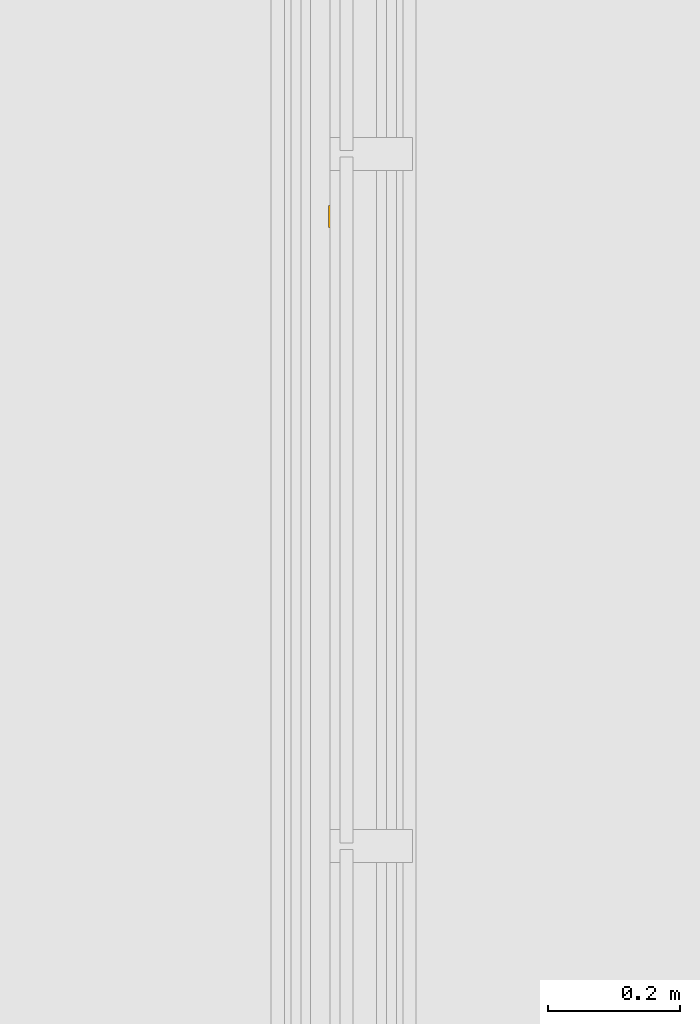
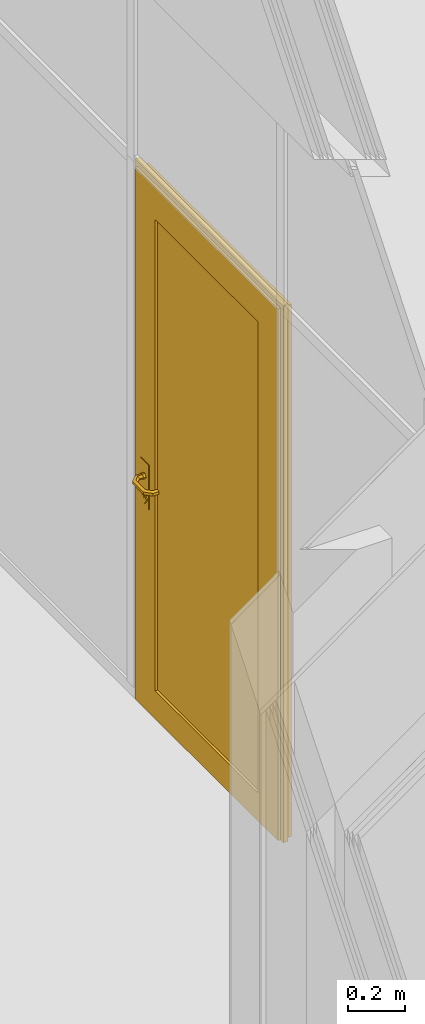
# One storey, part 248 of 260: 1 door, 1 element without a shape of its own.
"""IFC2X3 building model written with IfcOpenShell, lengths in millimetres."""

from ifc_helpers import new_model, entity, si_unit, converted_unit, derived_unit, money_unit, direction, frame, origin_with_axes, place, context, subcontext, project, spatial, open_shell, faceted_brep, surface_model, material, material_list, type_object, element, aggregate, save


model = new_model("IFC2X3")

# Units and contexts
model_context = context("Model", 3, precision=0.01, world=origin_with_axes(), true_north=direction((0.0, 1.0)))
body_context = subcontext(model_context, "Body", "Model", "MODEL_VIEW")
ifc_project = project(units=[si_unit("LENGTHUNIT", "METRE", prefix="MILLI"), si_unit("AREAUNIT", "SQUARE_METRE"), si_unit("VOLUMEUNIT", "CUBIC_METRE"), converted_unit("PLANEANGLEUNIT", "DEGREE", entity("IfcPlaneAngleMeasure", 0.0174532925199), si_unit("PLANEANGLEUNIT", "RADIAN"), dimensions=[0, 0, 0, 0, 0, 0, 0]), money_unit("EUR"), converted_unit("TIMEUNIT", "Year", entity("IfcTimeMeasure", 31556926.0), si_unit("TIMEUNIT", "SECOND"), dimensions=[0, 0, 1, 0, 0, 0, 0]), si_unit("MASSUNIT", "GRAM", prefix="KILO"), si_unit("THERMODYNAMICTEMPERATUREUNIT", "DEGREE_CELSIUS"), si_unit("LUMINOUSINTENSITYUNIT", "LUMEN"), si_unit("ENERGYUNIT", "JOULE", prefix="MEGA"), derived_unit("THERMALCONDUCTANCEUNIT", [(si_unit("POWERUNIT", "WATT"), 1), (si_unit("LENGTHUNIT", "METRE"), -1), (si_unit("THERMODYNAMICTEMPERATUREUNIT", "KELVIN"), -1)]), derived_unit("SPECIFICHEATCAPACITYUNIT", [(si_unit("ENERGYUNIT", "JOULE"), 1), (si_unit("MASSUNIT", "GRAM", prefix="KILO"), -1), (si_unit("THERMODYNAMICTEMPERATUREUNIT", "KELVIN"), -1)]), derived_unit("MASSDENSITYUNIT", [(si_unit("MASSUNIT", "GRAM", prefix="KILO"), 1), (si_unit("VOLUMEUNIT", "CUBIC_METRE"), -1)])], contexts=[model_context])

# Site, building, storey
site_placement = place(None, origin_with_axes())
site = spatial("IfcSite", under=ifc_project, at=site_placement, Name="Kolde pst 67a", CompositionType="ELEMENT")
building_placement = place(site_placement, origin_with_axes())
building = spatial("IfcBuilding", under=site, at=building_placement, Name="Riigigümnaasium", CompositionType="ELEMENT")
storey_placement = place(building_placement, origin_with_axes())
storey = spatial("IfcBuildingStorey", under=building, at=storey_placement, Name="1. korrus", CompositionType="ELEMENT", Elevation=0.0)

# Curtain wall, door
curtain_wall_type = type_object("IfcCurtainWallType", Name="Curtain Wall Type", PredefinedType="NOTDEFINED")
curtain_wall_placement = place(storey_placement, frame((67073.6436674, 24969.9980242, -4.39663916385e-06), z_axis=(0.0, 0.0, 1.0), x_axis=(1.0, 0.0, 0.0)))
curtain_wall = element("IfcCurtainWall", 1, at=curtain_wall_placement, inside=storey, type_object=curtain_wall_type, Name="KLAASSEIN")
ifc_material_1 = material(Name="_METALL - alumiinium")
ifc_material_2 = material(Name="_KLAAS - kirgas")
ifc_material_3 = material(Name="_METALL - teras")
ifc_material_list = material_list([ifc_material_1, ifc_material_2, ifc_material_3])
door_style = type_object("IfcDoorStyle", Name="1040 x 2295 x 20", ConstructionType="NOTDEFINED", OperationType="SINGLE_SWING_LEFT", ParameterTakesPrecedence=False, Sizeable=False)
door_placement = place(curtain_wall_placement, frame((0.0, 1050.0, 1149.99999438), z_axis=(0.0, 0.0, 1.0), x_axis=(0.0, 1.0, 0.0)))
door = element("IfcDoor", 2, at=door_placement, type_object=door_style, material=ifc_material_list, Name="Klaasseina uks", ObjectType="DOOR", OverallHeight=2275.0, OverallWidth=1000.0, context=body_context, shape_type="SurfaceModel", body=[
    faceted_brep([(500.000013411, -35.0, -1150.0), (500.000013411, -30.0, -1150.0), (500.000013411, -30.0, 1125.00001639), (500.000013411, -35.0, 1125.00001639), (455.000013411, -35.0, -1150.0), (455.000013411, -30.0, -1150.0), (455.000013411, -30.0, 1080.00001639), (455.000013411, -35.0, 1080.00001639)], [[[0, 1, 2, 3]], [[4, 5, 1, 0]], [[1, 5, 6, 2]], [[3, 2, 6, 7]], [[0, 3, 7, 4]], [[7, 6, 5, 4]]]),
    faceted_brep([(-500.000016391, -35.0, 1125.00001639), (-500.000016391, -30.0, 1125.00001639), (-455.000016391, -30.0, 1080.00001639), (-455.000016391, -35.0, 1080.00001639), (500.000013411, -35.0, 1125.00001639), (500.000013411, -30.0, 1125.00001639), (455.000013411, -30.0, 1080.00001639), (455.000013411, -35.0, 1080.00001639)], [[[0, 1, 2, 3]], [[4, 5, 1, 0]], [[1, 5, 6, 2]], [[3, 2, 6, 7]], [[0, 3, 7, 4]], [[7, 6, 5, 4]]]),
    faceted_brep([(-500.000016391, -35.0, -1150.0), (-500.000016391, -30.0, -1150.0), (-455.000016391, -30.0, -1150.0), (-455.000016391, -35.0, -1150.0), (-500.000016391, -35.0, 1125.00001639), (-500.000016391, -30.0, 1125.00001639), (-455.000016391, -30.0, 1080.00001639), (-455.000016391, -35.0, 1080.00001639)], [[[0, 1, 2, 3]], [[4, 5, 1, 0]], [[1, 5, 6, 2]], [[3, 2, 6, 7]], [[0, 3, 7, 4]], [[7, 6, 5, 4]]]),
    faceted_brep([(500.000013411, -30.0, -1150.0), (500.000013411, 20.0, -1150.0), (500.000013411, 20.0, 1125.00001639), (500.000013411, -30.0, 1125.00001639), (480.000013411, -30.0, -1150.0), (480.000013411, 20.0, -1150.0), (480.000013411, 20.0, 1105.00001639), (480.000013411, -30.0, 1105.00001639)], [[[0, 1, 2, 3]], [[4, 5, 1, 0]], [[1, 5, 6, 2]], [[3, 2, 6, 7]], [[0, 3, 7, 4]], [[7, 6, 5, 4]]]),
    faceted_brep([(-500.000016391, -30.0, 1125.00001639), (-500.000016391, 20.0, 1125.00001639), (-480.000016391, 20.0, 1105.00001639), (-480.000016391, -30.0, 1105.00001639), (500.000013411, -30.0, 1125.00001639), (500.000013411, 20.0, 1125.00001639), (480.000013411, 20.0, 1105.00001639), (480.000013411, -30.0, 1105.00001639)], [[[0, 1, 2, 3]], [[4, 5, 1, 0]], [[1, 5, 6, 2]], [[3, 2, 6, 7]], [[0, 3, 7, 4]], [[7, 6, 5, 4]]]),
    faceted_brep([(-500.000016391, -30.0, -1150.0), (-500.000016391, 20.0, -1150.0), (-480.000016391, 20.0, -1150.0), (-480.000016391, -30.0, -1150.0), (-500.000016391, -30.0, 1125.00001639), (-500.000016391, 20.0, 1125.00001639), (-480.000016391, 20.0, 1105.00001639), (-480.000016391, -30.0, 1105.00001639)], [[[0, 1, 2, 3]], [[4, 5, 1, 0]], [[1, 5, 6, 2]], [[3, 2, 6, 7]], [[0, 3, 7, 4]], [[7, 6, 5, 4]]]),
    faceted_brep([(519.999986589, -10.0, -1150.0), (519.999986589, 10.0, -1150.0), (519.999986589, 10.0, 1144.99998957), (519.999986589, -10.0, 1144.99998957), (500.000013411, -10.0, -1150.0), (500.000013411, 10.0, -1150.0), (500.000013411, 10.0, 1125.00001639), (500.000013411, -10.0, 1125.00001639)], [[[0, 1, 2, 3]], [[4, 5, 1, 0]], [[1, 5, 6, 2]], [[3, 2, 6, 7]], [[0, 3, 7, 4]], [[7, 6, 5, 4]]]),
    faceted_brep([(519.999986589, -10.0, 1144.99998957), (519.999986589, 10.0, 1144.99998957), (-519.999989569, 10.0, 1144.99998957), (-519.999989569, -10.0, 1144.99998957), (500.000013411, -10.0, 1125.00001639), (500.000013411, 10.0, 1125.00001639), (-500.000016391, 10.0, 1125.00001639), (-500.000016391, -10.0, 1125.00001639)], [[[0, 1, 2, 3]], [[4, 5, 1, 0]], [[1, 5, 6, 2]], [[3, 2, 6, 7]], [[0, 3, 7, 4]], [[7, 6, 5, 4]]]),
    faceted_brep([(-519.999989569, -10.0, 1144.99998957), (-519.999989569, 10.0, 1144.99998957), (-519.999989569, 10.0, -1150.0), (-519.999989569, -10.0, -1150.0), (-500.000016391, -10.0, 1125.00001639), (-500.000016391, 10.0, 1125.00001639), (-500.000016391, 10.0, -1150.0), (-500.000016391, -10.0, -1150.0)], [[[0, 1, 2, 3]], [[4, 5, 1, 0]], [[1, 5, 6, 2]], [[3, 2, 6, 7]], [[0, 3, 7, 4]], [[7, 6, 5, 4]]]),
    faceted_brep([(-360.000016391, -30.0, -1030.0), (-360.000016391, 20.0, -1030.0), (-360.000016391, 20.0, 985.000016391), (-360.000016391, -30.0, 985.000016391), (-480.000016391, -30.0, -1150.0), (-480.000016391, 20.0, -1150.0), (-480.000016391, 20.0, 1105.00001639), (-480.000016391, -30.0, 1105.00001639)], [[[0, 1, 2, 3]], [[4, 5, 1, 0]], [[1, 5, 6, 2]], [[3, 2, 6, 7]], [[0, 3, 7, 4]], [[7, 6, 5, 4]]]),
    faceted_brep([(480.000013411, -30.0, -1150.0), (480.000013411, 20.0, -1150.0), (480.000013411, 20.0, 1105.00001639), (480.000013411, -30.0, 1105.00001639), (360.000013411, -30.0, -1030.0), (360.000013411, 20.0, -1030.0), (360.000013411, 20.0, 985.000016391), (360.000013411, -30.0, 985.000016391)], [[[0, 1, 2, 3]], [[4, 5, 1, 0]], [[1, 5, 6, 2]], [[3, 2, 6, 7]], [[0, 3, 7, 4]], [[7, 6, 5, 4]]]),
    faceted_brep([(480.000013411, -30.0, -1150.0), (480.000013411, 20.0, -1150.0), (360.000013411, 20.0, -1030.0), (360.000013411, -30.0, -1030.0), (-480.000016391, -30.0, -1150.0), (-480.000016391, 20.0, -1150.0), (-360.000016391, 20.0, -1030.0), (-360.000016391, -30.0, -1030.0)], [[[0, 1, 2, 3]], [[4, 5, 1, 0]], [[1, 5, 6, 2]], [[3, 2, 6, 7]], [[0, 3, 7, 4]], [[7, 6, 5, 4]]]),
    faceted_brep([(-480.000016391, -30.0, 1105.00001639), (-480.000016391, 20.0, 1105.00001639), (-360.000016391, 20.0, 985.000016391), (-360.000016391, -30.0, 985.000016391), (480.000013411, -30.0, 1105.00001639), (480.000013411, 20.0, 1105.00001639), (360.000013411, 20.0, 985.000016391), (360.000013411, -30.0, 985.000016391)], [[[0, 1, 2, 3]], [[4, 5, 1, 0]], [[1, 5, 6, 2]], [[3, 2, 6, 7]], [[0, 3, 7, 4]], [[7, 6, 5, 4]]]),
    faceted_brep([(-360.000016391, -6.0, -1030.0), (-360.000016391, 10.0, -1030.0), (360.000013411, 10.0, -1030.0), (360.000013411, -6.0, -1030.0), (-360.000016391, -6.0, 985.000016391), (-360.000016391, 10.0, 985.000016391), (360.000013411, 10.0, 985.000016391), (360.000013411, -6.0, 985.000016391)], [[[0, 1, 2, 3]], [[4, 5, 1, 0]], [[1, 5, 6, 2]], [[3, 2, 6, 7]], [[0, 3, 7, 4]], [[7, 6, 5, 4]]]),
    faceted_brep([(458.500013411, 20.0, -90.0), (458.500013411, 23.0, -90.0), (401.500013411, 23.0, -90.0), (401.500013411, 20.0, -90.0), (458.500013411, 20.0, -280.0), (458.500013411, 23.0, -280.0), (401.500013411, 23.0, -280.0), (401.500013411, 20.0, -280.0)], [[[0, 1, 2, 3]], [[4, 5, 1, 0]], [[1, 5, 6, 2]], [[3, 2, 6, 7]], [[0, 3, 7, 4]], [[7, 6, 5, 4]]]),
    faceted_brep([(426.291809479, 33.0, -161.412678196), (425.982792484, 23.0, -162.363734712), (417.000013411, 23.0, -150.0), (418.000013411, 33.0, -150.0), (439.708217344, 33.0, -157.053423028), (440.517234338, 23.0, -157.64120828), (440.517234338, 23.0, -142.35879172), (425.982792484, 23.0, -137.636265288), (426.291809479, 33.0, -138.587321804), (439.708217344, 33.0, -142.946576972)], [[[0, 1, 2, 3]], [[4, 5, 1, 0]], [[2, 1, 5, 6, 7]], [[3, 2, 7, 8]], [[3, 8, 9, 4, 0]], [[9, 6, 5, 4]], [[8, 7, 6, 9]]]),
    faceted_brep([(423.819673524, 27.0, -264.021130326), (423.201639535, 23.0, -265.923243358), (408.000013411, 23.0, -245.0), (410.000013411, 27.0, -245.0), (446.180353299, 27.0, -256.755705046), (447.798387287, 23.0, -257.93127555), (447.798387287, 23.0, -232.06872445), (423.201639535, 23.0, -224.076756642), (423.819673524, 27.0, -225.978869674), (446.180353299, 27.0, -233.244294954)], [[[0, 1, 2, 3]], [[4, 5, 1, 0]], [[2, 1, 5, 6, 7]], [[3, 2, 7, 8]], [[3, 8, 9, 4, 0]], [[9, 6, 5, 4]], [[8, 7, 6, 9]]]),
    faceted_brep([(427.83689445, 29.0, -242.657395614), (427.527877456, 27.0, -243.60845213), (422.000013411, 27.0, -236.0), (423.000013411, 29.0, -236.0), (435.663132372, 29.0, -240.114496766), (436.472149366, 27.0, -240.702282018), (436.472149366, 27.0, -231.297717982), (427.527877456, 27.0, -228.39154787), (427.83689445, 29.0, -229.342604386), (435.663132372, 29.0, -231.885503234)], [[[0, 1, 2, 3]], [[4, 5, 1, 0]], [[2, 1, 5, 6, 7]], [[3, 2, 7, 8]], [[3, 8, 9, 4, 0]], [[9, 6, 5, 4]], [[8, 7, 6, 9]]]),
    surface_model("IfcShellBasedSurfaceModel", [(420.000013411, 33.0, -150.0), (420.000013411, 48.8578643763, -150.0), (426.909843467, 51.7200096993, -159.510565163), (426.909843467, 33.0, -159.510565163), (426.909843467, 33.0, -140.489434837), (426.909843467, 51.7200096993, -140.489434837), (405.857877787, 63.0, -150.0), (408.72002311, 69.9098300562, -159.510565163), (438.090183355, 56.3510581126, -155.877852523), (438.090183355, 33.0, -155.877852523), (438.090183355, 33.0, -144.122147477), (438.090183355, 56.3510581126, -144.122147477), (408.72002311, 69.9098300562, -140.489434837), (344.142149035, 63.0, -150.0), (341.280003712, 69.9098300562, -159.510565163), (413.351071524, 81.0901699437, -155.877852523), (413.351071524, 81.0901699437, -144.122147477), (341.280003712, 69.9098300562, -140.489434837), (330.000013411, 48.8578643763, -150.0), (323.090183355, 51.7200096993, -159.510565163), (336.648955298, 81.0901699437, -155.877852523), (336.648955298, 81.0901699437, -144.122147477), (323.090183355, 51.7200096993, -140.489434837), (330.000013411, 33.0, -150.0), (323.090183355, 33.0, -159.510565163), (311.909843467, 56.3510581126, -155.877852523), (311.909843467, 56.3510581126, -144.122147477), (323.090183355, 33.0, -140.489434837), (311.909843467, 33.0, -144.122147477), (311.909843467, 33.0, -155.877852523)], [open_shell([[[0, 1, 2, 3]], [[4, 5, 1, 0]], [[1, 6, 7, 2]], [[3, 2, 8, 9]], [[10, 11, 5, 4]], [[5, 12, 6, 1]], [[6, 13, 14, 7]], [[2, 7, 15, 8]], [[9, 8, 11, 10]], [[11, 16, 12, 5]], [[12, 17, 13, 6]], [[13, 18, 19, 14]], [[7, 14, 20, 15]], [[8, 15, 16, 11]], [[16, 21, 17, 12]], [[17, 22, 18, 13]], [[18, 23, 24, 19]], [[14, 19, 25, 20]], [[15, 20, 21, 16]], [[21, 26, 22, 17]], [[22, 27, 23, 18]], [[23, 27, 28, 29, 24]], [[19, 24, 29, 25]], [[20, 25, 26, 21]], [[26, 28, 27, 22]], [[25, 29, 28, 26]]])]),
    faceted_brep([(458.500013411, -30.0, -90.0), (401.500013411, -30.0, -90.0), (401.500013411, -33.0, -90.0), (458.500013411, -33.0, -90.0), (458.500013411, -30.0, -280.0), (401.500013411, -30.0, -280.0), (401.500013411, -33.0, -280.0), (458.500013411, -33.0, -280.0)], [[[0, 1, 2, 3]], [[0, 4, 5, 1]], [[1, 5, 6, 2]], [[3, 2, 6, 7]], [[4, 0, 3, 7]], [[5, 4, 7, 6]]]),
    faceted_brep([(426.291809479, -43.0, -161.412678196), (418.000013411, -43.0, -150.0), (417.000013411, -33.0, -150.0), (425.982792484, -33.0, -162.363734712), (439.708217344, -43.0, -157.053423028), (439.708217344, -43.0, -142.946576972), (426.291809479, -43.0, -138.587321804), (425.982792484, -33.0, -137.636265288), (440.517234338, -33.0, -142.35879172), (440.517234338, -33.0, -157.64120828)], [[[0, 1, 2, 3]], [[1, 0, 4, 5, 6]], [[1, 6, 7, 2]], [[2, 7, 8, 9, 3]], [[4, 0, 3, 9]], [[5, 4, 9, 8]], [[6, 5, 8, 7]]]),
    faceted_brep([(423.819673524, -37.0, -264.021130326), (410.000013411, -37.0, -245.0), (408.000013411, -33.0, -245.0), (423.201639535, -33.0, -265.923243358), (446.180353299, -37.0, -256.755705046), (446.180353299, -37.0, -233.244294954), (423.819673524, -37.0, -225.978869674), (423.201639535, -33.0, -224.076756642), (447.798387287, -33.0, -232.06872445), (447.798387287, -33.0, -257.93127555)], [[[0, 1, 2, 3]], [[1, 0, 4, 5, 6]], [[1, 6, 7, 2]], [[2, 7, 8, 9, 3]], [[4, 0, 3, 9]], [[5, 4, 9, 8]], [[6, 5, 8, 7]]]),
    faceted_brep([(427.83689445, -39.0, -242.657395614), (423.000013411, -39.0, -236.0), (422.000013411, -37.0, -236.0), (427.527877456, -37.0, -243.60845213), (435.663132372, -39.0, -240.114496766), (435.663132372, -39.0, -231.885503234), (427.83689445, -39.0, -229.342604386), (427.527877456, -37.0, -228.39154787), (436.472149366, -37.0, -231.297717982), (436.472149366, -37.0, -240.702282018)], [[[0, 1, 2, 3]], [[1, 0, 4, 5, 6]], [[1, 6, 7, 2]], [[2, 7, 8, 9, 3]], [[4, 0, 3, 9]], [[5, 4, 9, 8]], [[6, 5, 8, 7]]]),
    surface_model("IfcShellBasedSurfaceModel", [(420.000013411, -43.0, -150.0), (426.909843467, -43.0, -159.510565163), (426.909843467, -61.7200096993, -159.510565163), (420.000013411, -58.8578643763, -150.0), (438.090183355, -43.0, -155.877852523), (438.090183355, -66.3510581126, -155.877852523), (408.72002311, -79.9098300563, -159.510565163), (405.857877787, -73.0, -150.0), (426.909843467, -43.0, -140.489434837), (426.909843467, -61.7200096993, -140.489434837), (438.090183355, -43.0, -144.122147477), (438.090183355, -66.3510581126, -144.122147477), (413.351071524, -91.0901699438, -155.877852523), (341.280003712, -79.9098300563, -159.510565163), (344.142149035, -73.0, -150.0), (408.72002311, -79.9098300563, -140.489434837), (413.351071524, -91.0901699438, -144.122147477), (336.648955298, -91.0901699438, -155.877852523), (323.090183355, -61.7200096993, -159.510565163), (330.000013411, -58.8578643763, -150.0), (341.280003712, -79.9098300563, -140.489434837), (336.648955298, -91.0901699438, -144.122147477), (311.909843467, -66.3510581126, -155.877852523), (323.090183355, -43.0, -159.510565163), (330.000013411, -43.0, -150.0), (323.090183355, -61.7200096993, -140.489434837), (311.909843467, -66.3510581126, -144.122147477), (311.909843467, -43.0, -155.877852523), (311.909843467, -43.0, -144.122147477), (323.090183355, -43.0, -140.489434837)], [open_shell([[[0, 1, 2, 3]], [[1, 4, 5, 2]], [[3, 2, 6, 7]], [[8, 0, 3, 9]], [[4, 10, 11, 5]], [[2, 5, 12, 6]], [[7, 6, 13, 14]], [[9, 3, 7, 15]], [[10, 8, 9, 11]], [[5, 11, 16, 12]], [[6, 12, 17, 13]], [[14, 13, 18, 19]], [[15, 7, 14, 20]], [[11, 9, 15, 16]], [[12, 16, 21, 17]], [[13, 17, 22, 18]], [[19, 18, 23, 24]], [[20, 14, 19, 25]], [[16, 15, 20, 21]], [[17, 21, 26, 22]], [[18, 22, 27, 23]], [[24, 23, 27, 28, 29]], [[25, 19, 24, 29]], [[21, 20, 25, 26]], [[22, 26, 28, 27]], [[26, 25, 29, 28]]])]),
])
aggregate(curtain_wall, [door])

save(model, "model.ifc")
